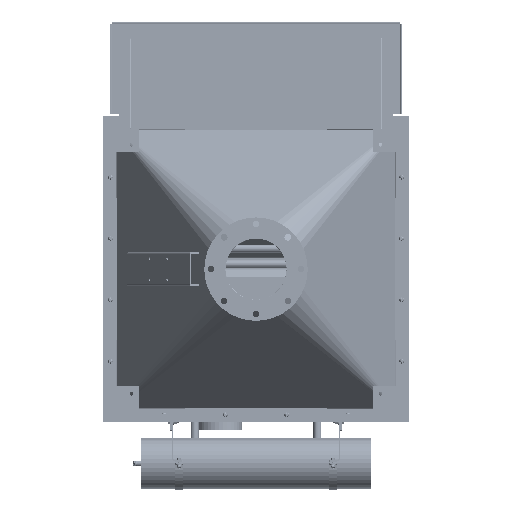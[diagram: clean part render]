
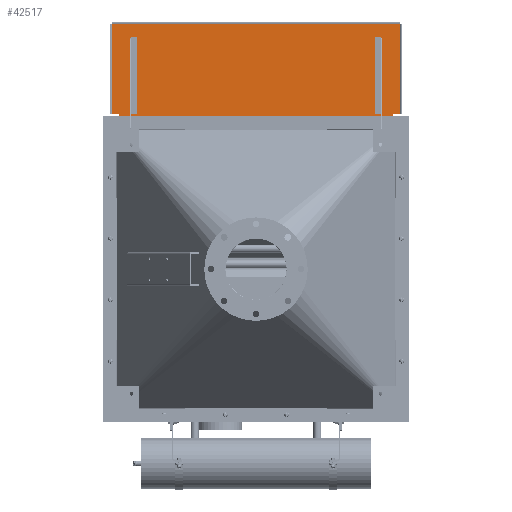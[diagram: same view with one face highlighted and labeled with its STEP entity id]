
A CAD part, front view. The second image highlights one B-rep face of the part: STEP entity #42517.
In plain terms, the highlighted planar face has unit normal (0, -1, 0).
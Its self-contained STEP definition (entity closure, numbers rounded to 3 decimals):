
#4524=PLANE('',#48111);
#6550=FACE_OUTER_BOUND('',#9305,.T.);
#9305=EDGE_LOOP('',(#37606,#37607,#37608,#37609,#37610,#37611,#37612,#37613,
#37614,#37615,#37616,#37617));
#12368=LINE('',#115897,#15507);
#12372=LINE('',#115905,#15511);
#12375=LINE('',#115911,#15514);
#12378=LINE('',#115917,#15517);
#12383=LINE('',#115926,#15522);
#12399=LINE('',#115967,#15538);
#12414=LINE('',#116005,#15553);
#12429=LINE('',#116043,#15568);
#12432=LINE('',#116049,#15571);
#12435=LINE('',#116055,#15574);
#12436=LINE('',#116057,#15575);
#12439=LINE('',#116062,#15578);
#15507=VECTOR('',#58966,0.394);
#15511=VECTOR('',#58972,0.394);
#15514=VECTOR('',#58977,0.394);
#15517=VECTOR('',#58982,0.394);
#15522=VECTOR('',#58989,0.394);
#15538=VECTOR('',#59031,0.394);
#15553=VECTOR('',#59072,0.394);
#15568=VECTOR('',#59113,0.394);
#15571=VECTOR('',#59118,0.394);
#15574=VECTOR('',#59123,0.394);
#15575=VECTOR('',#59126,0.394);
#15578=VECTOR('',#59133,0.394);
#21187=VERTEX_POINT('',#115895);
#21188=VERTEX_POINT('',#115896);
#21191=VERTEX_POINT('',#115904);
#21193=VERTEX_POINT('',#115910);
#21195=VERTEX_POINT('',#115916);
#21198=VERTEX_POINT('',#115924);
#21208=VERTEX_POINT('',#115952);
#21209=VERTEX_POINT('',#115956);
#21219=VERTEX_POINT('',#115994);
#21229=VERTEX_POINT('',#116030);
#21232=VERTEX_POINT('',#116047);
#21234=VERTEX_POINT('',#116053);
#26704=EDGE_CURVE('',#21187,#21188,#12368,.T.);
#26708=EDGE_CURVE('',#21188,#21191,#12372,.T.);
#26711=EDGE_CURVE('',#21191,#21193,#12375,.T.);
#26714=EDGE_CURVE('',#21193,#21195,#12378,.T.);
#26719=EDGE_CURVE('',#21198,#21187,#12383,.T.);
#26739=EDGE_CURVE('',#21208,#21209,#12399,.T.);
#26758=EDGE_CURVE('',#21198,#21219,#12414,.T.);
#26777=EDGE_CURVE('',#21229,#21195,#12429,.T.);
#26780=EDGE_CURVE('',#21209,#21232,#12432,.T.);
#26783=EDGE_CURVE('',#21219,#21234,#12435,.T.);
#26784=EDGE_CURVE('',#21234,#21208,#12436,.T.);
#26787=EDGE_CURVE('',#21232,#21229,#12439,.T.);
#37606=ORIENTED_EDGE('',*,*,#26784,.T.);
#37607=ORIENTED_EDGE('',*,*,#26739,.T.);
#37608=ORIENTED_EDGE('',*,*,#26780,.T.);
#37609=ORIENTED_EDGE('',*,*,#26787,.T.);
#37610=ORIENTED_EDGE('',*,*,#26777,.T.);
#37611=ORIENTED_EDGE('',*,*,#26714,.F.);
#37612=ORIENTED_EDGE('',*,*,#26711,.F.);
#37613=ORIENTED_EDGE('',*,*,#26708,.F.);
#37614=ORIENTED_EDGE('',*,*,#26704,.F.);
#37615=ORIENTED_EDGE('',*,*,#26719,.F.);
#37616=ORIENTED_EDGE('',*,*,#26758,.T.);
#37617=ORIENTED_EDGE('',*,*,#26783,.T.);
#42517=ADVANCED_FACE('',(#6550),#4524,.T.);
#48111=AXIS2_PLACEMENT_3D('',#116061,#59131,#59132);
#58966=DIRECTION('',(0.,0.,-1.));
#58972=DIRECTION('',(-1.,0.,0.));
#58977=DIRECTION('',(0.,0.,1.));
#58982=DIRECTION('',(-1.,0.,0.));
#58989=DIRECTION('',(-1.,0.,0.));
#59031=DIRECTION('',(-1.,0.,0.));
#59072=DIRECTION('',(0.,0.,1.));
#59113=DIRECTION('',(0.,0.,-1.));
#59118=DIRECTION('',(-1.,0.,0.));
#59123=DIRECTION('',(0.,0.,1.));
#59126=DIRECTION('',(-1.,0.,0.));
#59131=DIRECTION('center_axis',(0.,-1.,0.));
#59132=DIRECTION('ref_axis',(1.,0.,0.));
#59133=DIRECTION('',(0.,0.,-1.));
#115895=CARTESIAN_POINT('',(17.813,0.795,-6.));
#115896=CARTESIAN_POINT('',(17.813,0.795,-8.5));
#115897=CARTESIAN_POINT('',(17.813,0.795,-6.));
#115904=CARTESIAN_POINT('',(-17.813,0.795,-8.5));
#115905=CARTESIAN_POINT('',(17.813,0.795,-8.5));
#115910=CARTESIAN_POINT('',(-17.813,0.795,-6.));
#115911=CARTESIAN_POINT('',(-17.813,0.795,-8.5));
#115916=CARTESIAN_POINT('',(-18.803,0.795,-6.));
#115917=CARTESIAN_POINT('',(19.,0.795,-6.));
#115924=CARTESIAN_POINT('',(18.803,0.795,-6.));
#115926=CARTESIAN_POINT('',(19.,0.795,-6.));
#115952=CARTESIAN_POINT('',(18.77,0.795,5.803));
#115956=CARTESIAN_POINT('',(-18.77,0.795,5.803));
#115967=CARTESIAN_POINT('',(-18.902,0.795,5.803));
#115994=CARTESIAN_POINT('',(18.803,0.795,5.77));
#116005=CARTESIAN_POINT('',(18.803,0.795,2.902));
#116030=CARTESIAN_POINT('',(-18.803,0.795,5.77));
#116043=CARTESIAN_POINT('',(-18.803,0.795,-3.));
#116047=CARTESIAN_POINT('',(-18.803,0.795,5.803));
#116049=CARTESIAN_POINT('',(-18.902,0.795,5.803));
#116053=CARTESIAN_POINT('',(18.803,0.795,5.803));
#116055=CARTESIAN_POINT('',(18.803,0.795,2.902));
#116057=CARTESIAN_POINT('',(-18.902,0.795,5.803));
#116061=CARTESIAN_POINT('Origin',(-19.,0.795,0.));
#116062=CARTESIAN_POINT('',(-18.803,0.795,-3.));
